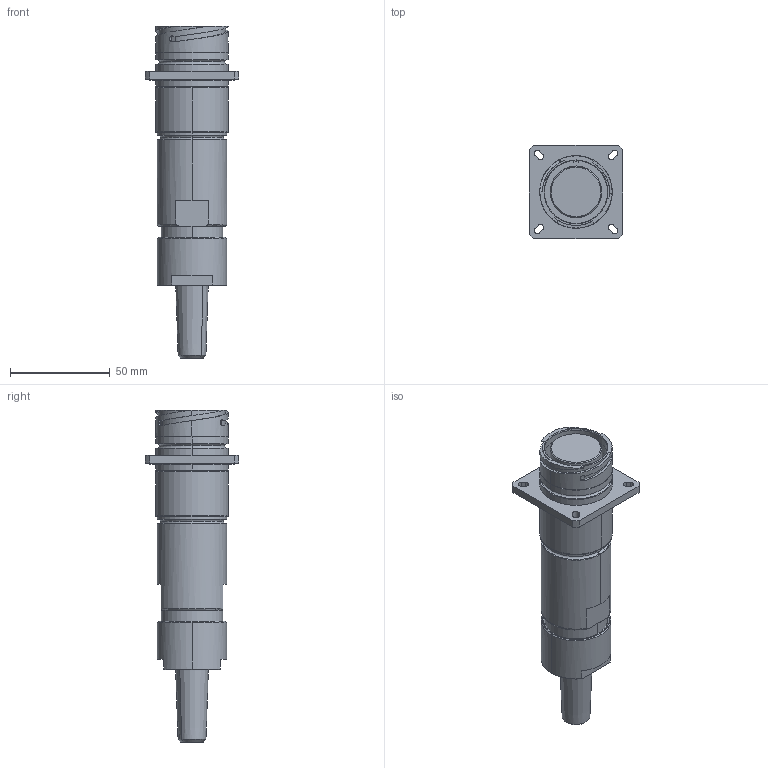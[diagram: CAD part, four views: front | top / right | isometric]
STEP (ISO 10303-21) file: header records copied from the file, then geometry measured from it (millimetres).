
FILE_DESCRIPTION (( 'STEP AP214' ), '1' );
FILE_NAME ('QLINK-RFBX-21XX-SXXX-RA.STEP', '2025-12-16T16:06:54', ( '' ), ( '' ), 'SwSTEP 2.0', 'SolidWorks 2024', '' );
FILE_SCHEMA (( 'AUTOMOTIVE_DESIGN' ));
Length unit declared in the file: millimetre
Products named in the file (1): QLINK-RFBX-21XX-SXXX-RA
Bounding box: 46.86 x 46.86 x 166.39 mm (x, y, z)
Volume: 127023.6 mm3; surface area: 29175.7 mm2
Topology: 2 solids, 2 shells, 196 faces, 467 edges, 294 vertices
Faces by surface type: cylinder 71, plane 57, torus 26, cone 25, bspline 17
Entity records: 9092 total; most frequent: CARTESIAN_POINT 4572, DIRECTION 960, ORIENTED_EDGE 934, EDGE_CURVE 467, AXIS2_PLACEMENT_3D 398, VERTEX_POINT 294, EDGE_LOOP 225, CIRCLE 218
